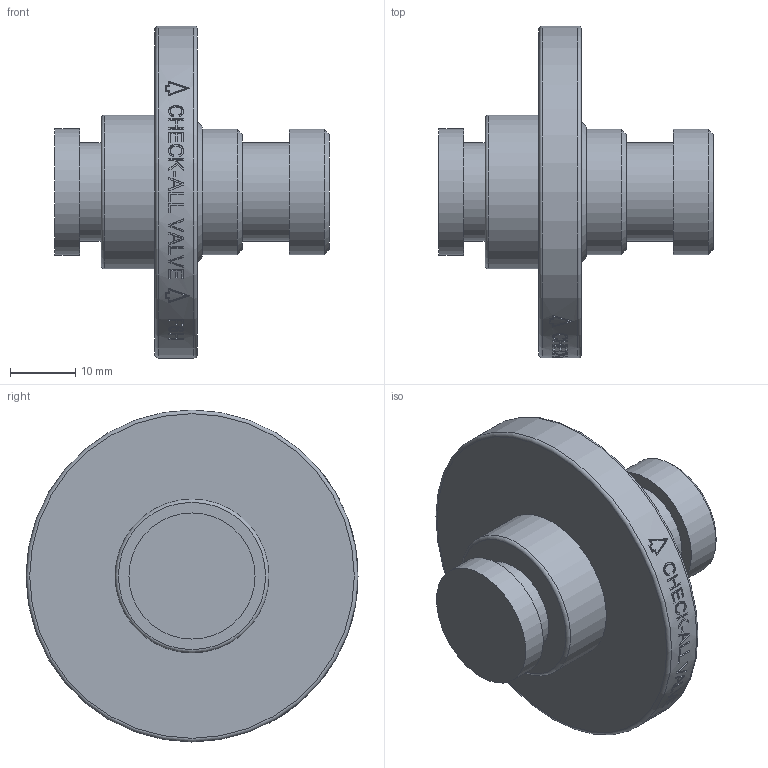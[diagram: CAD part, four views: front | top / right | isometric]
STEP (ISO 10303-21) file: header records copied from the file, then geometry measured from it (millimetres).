
FILE_DESCRIPTION( ( 'Unknown' ), '1' );
FILE_NAME( 'Y:/ENGR/3D Solid Edge Models/F6/F6 STEP/F6H.stp', 'Unknown', ( 'Unknown' ), ( 'Unknown' ), 'PSStep 14.0', 'Unknown', ' ' );
FILE_SCHEMA( ( 'AUTOMOTIVE_DESIGN { 1 0 10303 214 1 1 1 1 }' ) );
Length unit declared in the file: millimetre
Products named in the file (1): 1
Bounding box: 42.01 x 50.8 x 50.8 mm (x, y, z)
Volume: 23431.7 mm3; surface area: 7543.7 mm2
Topology: 1 solids, 1 shells, 214 faces, 538 edges, 357 vertices
Faces by surface type: plane 132, bspline 45, cylinder 31, torus 3, cone 3
Full cylindrical faces by diameter (mm): 15.062 x2, 19.177 x2, 19.304 x1, 23.546 x1, 50.8 x1
Entity records: 9380 total; most frequent: CARTESIAN_POINT 3676, ORIENTED_EDGE 1048, EDGE_CURVE 524, B_SPLINE_CURVE_WITH_KNOTS 503, DIRECTION 382, VERTEX_POINT 357, EDGE_LOOP 259, FACE_OUTER_BOUND 225
